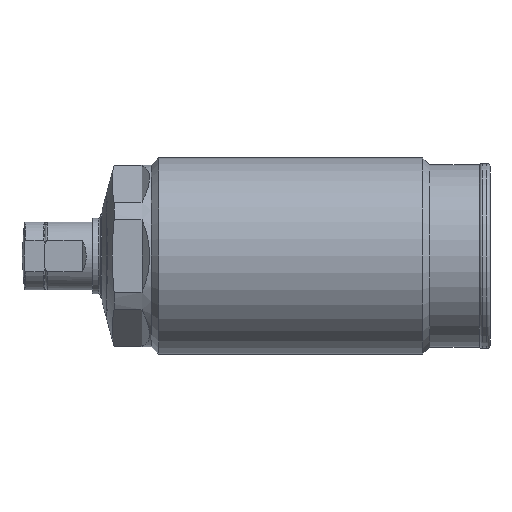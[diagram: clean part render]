
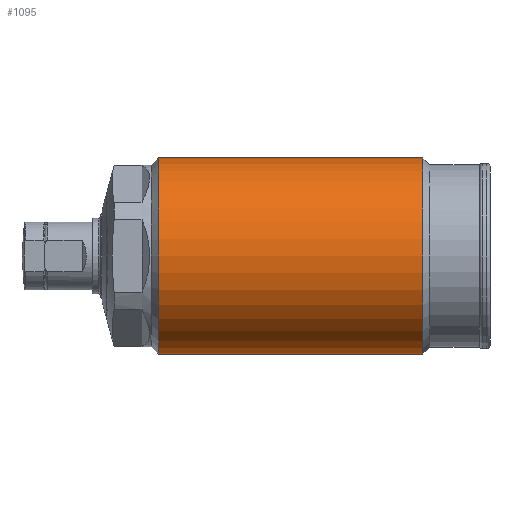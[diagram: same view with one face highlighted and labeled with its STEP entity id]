
A CAD part, left-side view. The second image highlights one B-rep face of the part: STEP entity #1095.
In plain terms, the highlighted cylindrical face has radius 13 mm (diameter 26 mm), a partial arc.
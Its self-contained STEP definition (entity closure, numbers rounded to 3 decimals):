
#821=CYLINDRICAL_SURFACE('',#2906,13.);
#883=LINE('',#4238,#971);
#884=LINE('',#4239,#972);
#971=VECTOR('',#3410,1.);
#972=VECTOR('',#3411,1.);
#1095=ADVANCED_FACE('',(#1260),#821,.T.);
#1260=FACE_OUTER_BOUND('',#1398,.T.);
#1398=EDGE_LOOP('',(#1819,#1820,#1821,#1822));
#1819=ORIENTED_EDGE('',*,*,#2389,.F.);
#1820=ORIENTED_EDGE('',*,*,#2421,.T.);
#1821=ORIENTED_EDGE('',*,*,#2390,.T.);
#1822=ORIENTED_EDGE('',*,*,#2422,.F.);
#2152=VERTEX_POINT('',#4230);
#2153=VERTEX_POINT('',#4232);
#2154=VERTEX_POINT('',#4236);
#2155=VERTEX_POINT('',#4237);
#2389=EDGE_CURVE('',#2155,#2153,#883,.T.);
#2390=EDGE_CURVE('',#2154,#2152,#884,.T.);
#2421=EDGE_CURVE('',#2155,#2154,#2641,.T.);
#2422=EDGE_CURVE('',#2153,#2152,#2642,.T.);
#2641=CIRCLE('',#2903,13.);
#2642=CIRCLE('',#2905,13.);
#2903=AXIS2_PLACEMENT_3D('',#4303,#3498,#3499);
#2905=AXIS2_PLACEMENT_3D('',#4305,#3502,#3503);
#2906=AXIS2_PLACEMENT_3D('',#4306,#3504,#3505);
#3410=DIRECTION('',(0.,1.,0.));
#3411=DIRECTION('',(0.,1.,0.));
#3498=DIRECTION('',(0.,1.,0.));
#3499=DIRECTION('',(0.,0.,1.));
#3502=DIRECTION('',(0.,1.,0.));
#3503=DIRECTION('',(0.,0.,1.));
#3504=DIRECTION('',(0.,1.,0.));
#3505=DIRECTION('',(0.,0.,-1.));
#4230=CARTESIAN_POINT('',(0.,43.9,13.));
#4232=CARTESIAN_POINT('',(0.,43.9,-13.));
#4236=CARTESIAN_POINT('',(0.,8.9,13.));
#4237=CARTESIAN_POINT('',(0.,8.9,-13.));
#4238=CARTESIAN_POINT('',(0.,52.7,-13.));
#4239=CARTESIAN_POINT('',(0.,52.7,13.));
#4303=CARTESIAN_POINT('',(0.,8.9,0.));
#4305=CARTESIAN_POINT('',(0.,43.9,0.));
#4306=CARTESIAN_POINT('',(0.,52.7,0.));
